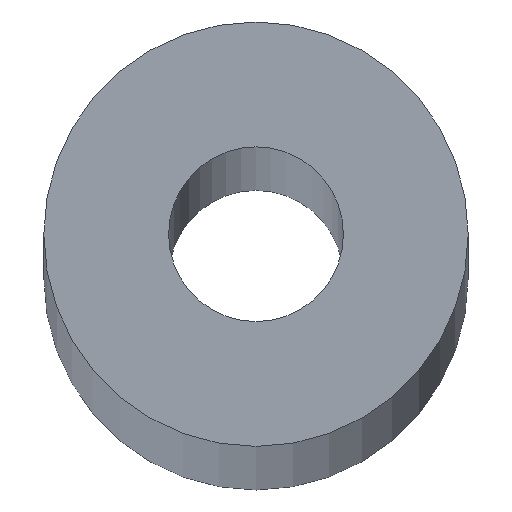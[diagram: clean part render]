
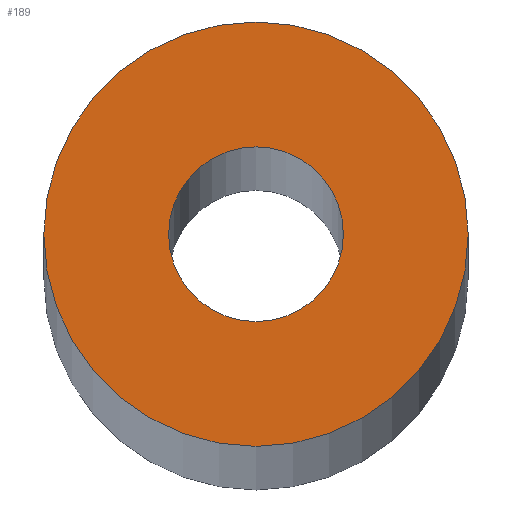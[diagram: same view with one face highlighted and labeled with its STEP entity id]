
A CAD part, top view. The second image highlights one B-rep face of the part: STEP entity #189.
In plain terms, the highlighted planar face has unit normal (0, 0, 1).
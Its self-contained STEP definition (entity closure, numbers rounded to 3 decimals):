
#51=CARTESIAN_POINT('',(-8.5,0.,1000.0));
#52=VERTEX_POINT('',#51);
#68=CARTESIAN_POINT('',(8.5,0.,1000.0));
#69=VERTEX_POINT('',#68);
#76=CARTESIAN_POINT('',(0.0,0.0,1000.0));
#77=DIRECTION('',(0.0,0.0,-1.0));
#78=DIRECTION('',(-1.0,0.0,0.0));
#79=AXIS2_PLACEMENT_3D('',#76,#77,#78);
#80=CIRCLE('',#79,8.5);
#81=EDGE_CURVE('',#69,#52,#80,.T.);
#91=CARTESIAN_POINT('',(-3.5,0.,1000.0));
#92=VERTEX_POINT('',#91);
#101=CARTESIAN_POINT('',(3.5,0.,1000.0));
#102=VERTEX_POINT('',#101);
#103=CARTESIAN_POINT('',(0.0,0.0,1000.0));
#104=DIRECTION('',(0.0,0.0,-1.0));
#105=DIRECTION('',(-1.0,0.0,0.0));
#106=AXIS2_PLACEMENT_3D('',#103,#104,#105);
#107=CIRCLE('',#106,3.5);
#108=EDGE_CURVE('',#102,#92,#107,.T.);
#142=CARTESIAN_POINT('',(0.0,0.0,1000.0));
#143=DIRECTION('',(0.0,0.0,-1.0));
#144=DIRECTION('',(-1.0,0.0,0.0));
#145=AXIS2_PLACEMENT_3D('',#142,#143,#144);
#146=CIRCLE('',#145,3.5);
#147=EDGE_CURVE('',#92,#102,#146,.T.);
#158=CARTESIAN_POINT('',(0.0,0.0,1000.0));
#159=DIRECTION('',(0.0,0.0,-1.0));
#160=DIRECTION('',(-1.0,0.0,0.0));
#161=AXIS2_PLACEMENT_3D('',#158,#159,#160);
#162=CIRCLE('',#161,8.5);
#163=EDGE_CURVE('',#52,#69,#162,.T.);
#176=CARTESIAN_POINT('',(0.773,0.,1000.0));
#177=DIRECTION('',(0.0,0.0,1.0));
#178=DIRECTION('',(1.0,0.0,0.0));
#179=AXIS2_PLACEMENT_3D('',#176,#177,#178);
#180=PLANE('',#179);
#181=ORIENTED_EDGE('',*,*,#81,.F.);
#182=ORIENTED_EDGE('',*,*,#163,.F.);
#183=EDGE_LOOP('',(#181,#182));
#184=FACE_OUTER_BOUND('',#183,.T.);
#185=ORIENTED_EDGE('',*,*,#108,.T.);
#186=ORIENTED_EDGE('',*,*,#147,.T.);
#187=EDGE_LOOP('',(#185,#186));
#188=FACE_BOUND('',#187,.T.);
#189=ADVANCED_FACE('',(#184,#188),#180,.T.);
